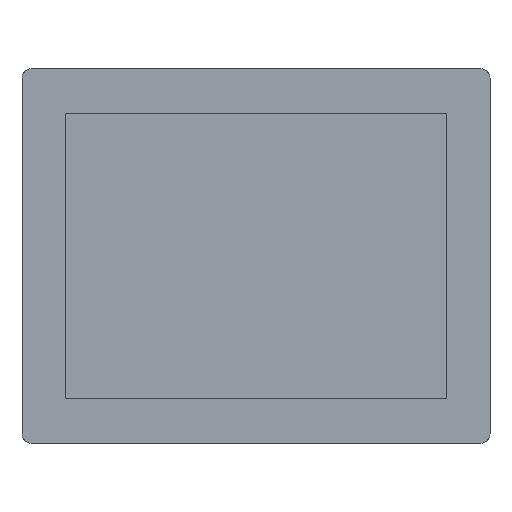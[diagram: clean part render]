
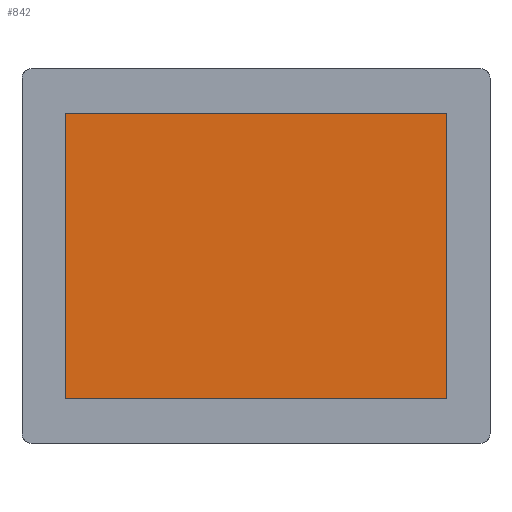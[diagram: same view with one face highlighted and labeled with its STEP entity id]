
A CAD part, top view. The second image highlights one B-rep face of the part: STEP entity #842.
In plain terms, the highlighted planar face has unit normal (0, 0, 1).
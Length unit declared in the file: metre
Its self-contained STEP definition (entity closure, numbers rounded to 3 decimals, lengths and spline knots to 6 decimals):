
#135=ORIENTED_EDGE('',*,*,#324,.F.);
#136=ORIENTED_EDGE('',*,*,#327,.T.);
#137=ORIENTED_EDGE('',*,*,#329,.T.);
#138=ORIENTED_EDGE('',*,*,#330,.F.);
#324=EDGE_CURVE('',#425,#426,#504,.T.);
#327=EDGE_CURVE('',#425,#427,#507,.T.);
#329=EDGE_CURVE('',#427,#428,#509,.T.);
#330=EDGE_CURVE('',#426,#428,#510,.T.);
#425=VERTEX_POINT('',#1274);
#426=VERTEX_POINT('',#1276);
#427=VERTEX_POINT('',#1280);
#428=VERTEX_POINT('',#1284);
#504=LINE('',#1275,#604);
#507=LINE('',#1281,#607);
#509=LINE('',#1285,#609);
#510=LINE('',#1287,#610);
#604=VECTOR('',#1045,1.);
#607=VECTOR('',#1050,1.);
#609=VECTOR('',#1054,1.);
#610=VECTOR('',#1057,1.);
#693=EDGE_LOOP('',(#135,#136,#137,#138));
#749=FACE_BOUND('',#693,.T.);
#796=PLANE('',#918);
#842=ADVANCED_FACE('',(#749),#796,.T.);
#918=AXIS2_PLACEMENT_3D('',#1288,#1058,#1059);
#1045=DIRECTION('',(0.,-1.,0.));
#1050=DIRECTION('',(-1.,0.,0.));
#1054=DIRECTION('',(0.,-1.,0.));
#1057=DIRECTION('',(-1.,0.,0.));
#1058=DIRECTION('',(0.,0.,1.));
#1059=DIRECTION('',(1.,0.,0.));
#1274=CARTESIAN_POINT('',(0.0815,0.061,0.00179));
#1275=CARTESIAN_POINT('',(0.0815,0.,0.00179));
#1276=CARTESIAN_POINT('',(0.0815,-0.061,0.00179));
#1280=CARTESIAN_POINT('',(-0.0815,0.061,0.00179));
#1281=CARTESIAN_POINT('',(0.,0.061,0.00179));
#1284=CARTESIAN_POINT('',(-0.0815,-0.061,0.00179));
#1285=CARTESIAN_POINT('',(-0.0815,0.,0.00179));
#1287=CARTESIAN_POINT('',(0.,-0.061,0.00179));
#1288=CARTESIAN_POINT('',(0.,0.,0.00179));
